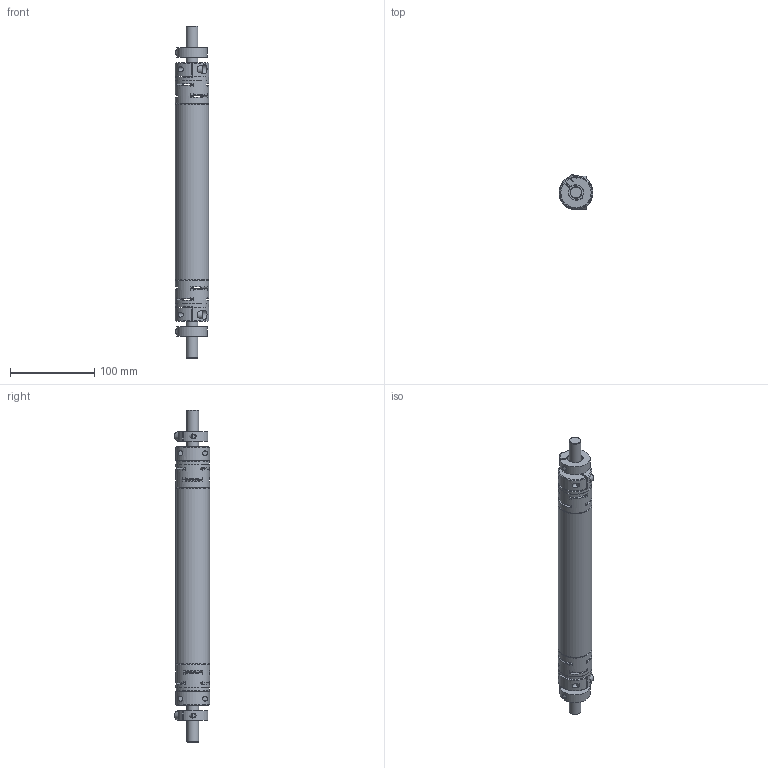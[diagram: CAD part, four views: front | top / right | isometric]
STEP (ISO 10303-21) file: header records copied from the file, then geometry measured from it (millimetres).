
FILE_DESCRIPTION(/* description */ ('Connecting shaft HLR080 - double axis distance = 400mm'),/* implementation_level */ '2;1');
FILE_NAME(/* name */ 'D:\InventorWorkspace2017\CAD\Projekte_EDEM\HLR\Zubehörteile\0242910-0400.stp',/* time_stamp */ '2019-02-13T11:19:21+01:00',/* author */ ('544672'),/* organization */ (''),/* preprocessor_version */ 'ST-DEVELOPER v16.5',/* originating_system */ 'Autodesk Inventor 2017',/* authorisation */ '');
FILE_SCHEMA (('AUTOMOTIVE_DESIGN { 1 0 10303 214 3 1 1 }'));
Length unit declared in the file: millimetre
Products named in the file (8): 0242.910-0400; 0241910-XXXX; ROTEX GS19 ZR3_Rohr_1; ROTEX GS19 ZR3_Klemmnabe D14; 0242007-02; 0241914; 0241012; 130-302345
Assembly tree (11 placements, depth 3):
  0242.910-0400
    0241910-XXXX
      ROTEX GS19 ZR3_Klemmnabe D14  x2
      ROTEX GS19 ZR3_Rohr_1
    0242007-02
      0241914  x2
      0241012  x2
      130-302345  x2
Bounding box: 40 x 41.78 x 395 mm (x, y, z)
Volume: 199511.5 mm3; surface area: 100837.1 mm2
Topology: 9 solids, 9 shells, 424 faces, 1188 edges, 790 vertices
Faces by surface type: cylinder 176, plane 154, cone 90, torus 4
Full cylindrical faces by diameter (mm): 3 x12, 4.917 x2, 6 x6, 6.4 x2, 6.6 x8, 10 x6, 14 x4, 18 x4, 22 x2, 34 x1, 39.4 x2, 40 x3
Entity records: 7305 total; most frequent: CARTESIAN_POINT 1526, DIRECTION 1269, ORIENTED_EDGE 1082, EDGE_CURVE 541, AXIS2_PLACEMENT_3D 540, VERTEX_POINT 383, EDGE_LOOP 294, CIRCLE 291
